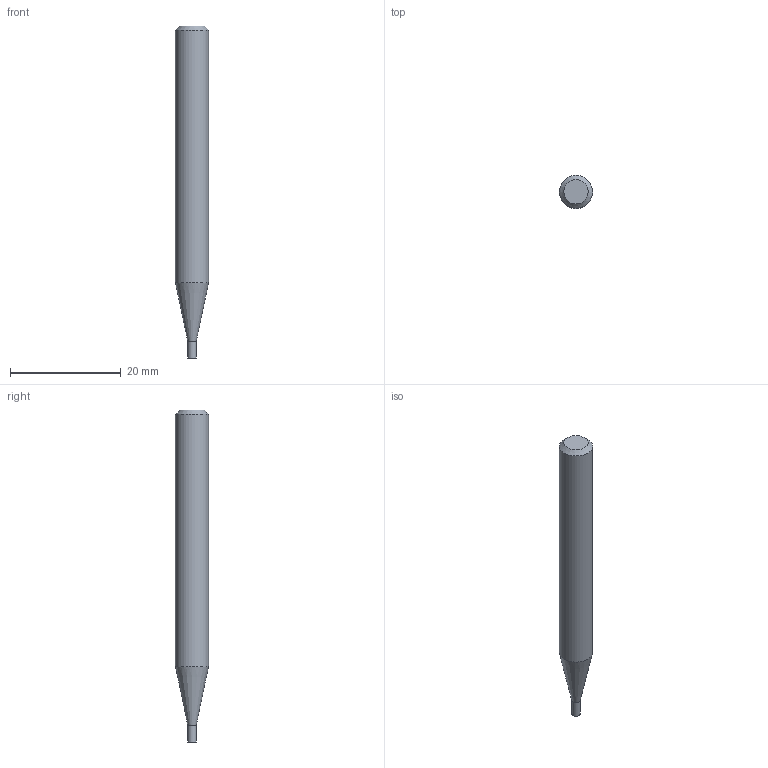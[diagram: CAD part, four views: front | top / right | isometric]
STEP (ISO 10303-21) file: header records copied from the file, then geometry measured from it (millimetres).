
FILE_DESCRIPTION((''),'2;1');
FILE_NAME('C:\Users\nsx150\AppData\Local\Temp\Mastercam 2021\Y59DX2IYLB\TEMP.step','2021-04-08T17:04:42',(''),(''),'STEP Write','Mastercam 2021 ... CNC Software, Inc.','');
FILE_SCHEMA(('AUTOMOTIVE_DESIGN'));
Length unit declared in the file: millimetre
Products named in the file (1): None
Bounding box: 6 x 6 x 60 mm (x, y, z)
Volume: 1443.1 mm3; surface area: 1040.4 mm2
Topology: 2 solids, 2 shells, 8 faces, 10 edges, 6 vertices
Faces by surface type: plane 4, cylinder 2, cone 2
Full cylindrical faces by diameter (mm): 1.5 x1, 6 x1
Entity records: 190 total; most frequent: DIRECTION 32, CARTESIAN_POINT 22, AXIS2_PLACEMENT_3D 16, ORIENTED_EDGE 12, EDGE_LOOP 12, STYLED_ITEM 11, ADVANCED_FACE 8, VERTEX_POINT 6
